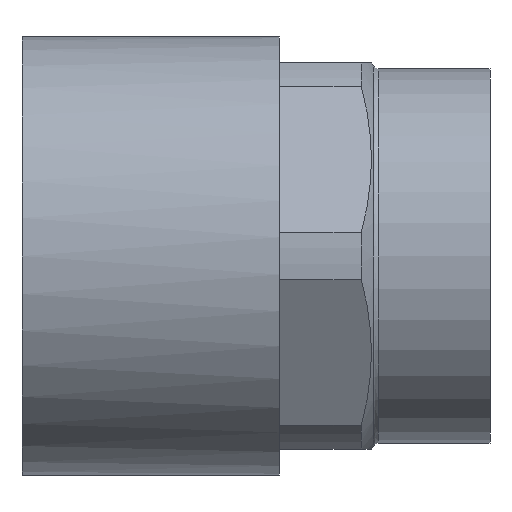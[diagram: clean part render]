
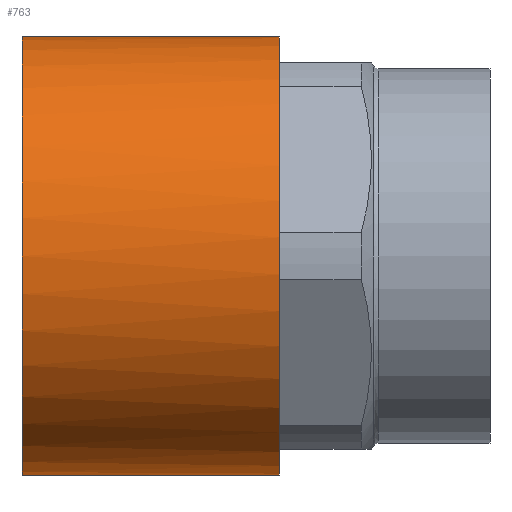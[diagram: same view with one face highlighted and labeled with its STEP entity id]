
A CAD part, front view. The second image highlights one B-rep face of the part: STEP entity #763.
In plain terms, the highlighted cylindrical face has radius 18.75 mm (diameter 37.5 mm), a full revolution.
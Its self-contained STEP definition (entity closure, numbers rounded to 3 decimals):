
#495=CARTESIAN_POINT('',(22.0,9.837,15.963));
#496=VERTEX_POINT('',#495);
#497=CARTESIAN_POINT('',(22.0,0.,0.0));
#498=DIRECTION('',(1.0,0.0,0.0));
#499=DIRECTION('',(0.0,1.0,0.0));
#500=AXIS2_PLACEMENT_3D('',#497,#498,#499);
#501=CIRCLE('',#500,18.75);
#502=EDGE_CURVE('',#496,#496,#501,.T.);
#597=CARTESIAN_POINT('',(0.0,18.75,0.0));
#598=VERTEX_POINT('',#597);
#599=CARTESIAN_POINT('',(0.,0.,0.0));
#600=DIRECTION('',(1.0,0.0,0.0));
#601=DIRECTION('',(0.0,1.0,0.0));
#602=AXIS2_PLACEMENT_3D('',#599,#600,#601);
#603=CIRCLE('',#602,18.75);
#604=EDGE_CURVE('',#598,#598,#603,.T.);
#752=CARTESIAN_POINT('',(11.0,0.,0.0));
#753=DIRECTION('',(1.0,0.,0.0));
#754=DIRECTION('',(0.0,1.0,0.0));
#755=AXIS2_PLACEMENT_3D('',#752,#753,#754);
#756=CYLINDRICAL_SURFACE('',#755,18.75);
#757=ORIENTED_EDGE('',*,*,#502,.F.);
#758=EDGE_LOOP('',(#757));
#759=FACE_OUTER_BOUND('',#758,.T.);
#760=ORIENTED_EDGE('',*,*,#604,.T.);
#761=EDGE_LOOP('',(#760));
#762=FACE_BOUND('',#761,.T.);
#763=ADVANCED_FACE('',(#759,#762),#756,.T.);
